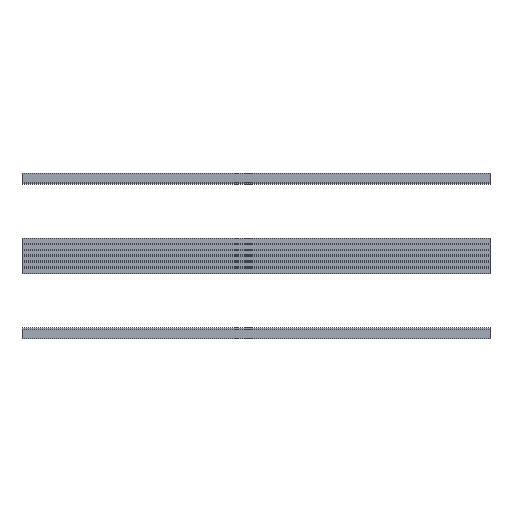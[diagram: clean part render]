
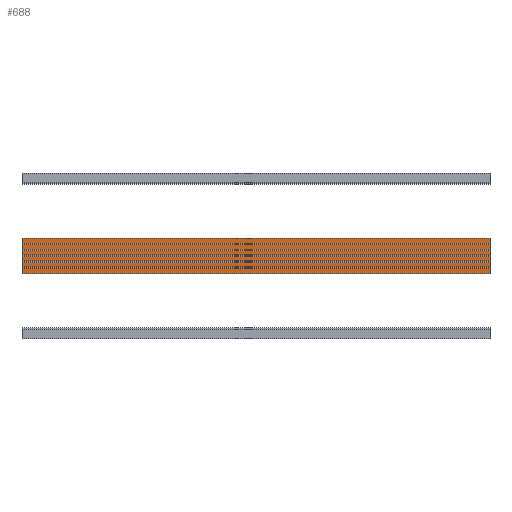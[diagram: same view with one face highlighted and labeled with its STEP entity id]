
A CAD part, top view. The second image highlights one B-rep face of the part: STEP entity #688.
In plain terms, the highlighted planar face has unit normal (0, 0, 1).
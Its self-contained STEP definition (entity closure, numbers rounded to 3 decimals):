
#374 = VERTEX_POINT('',#375);
#375 = CARTESIAN_POINT('',(2.25,-12.,50.));
#382 = PLANE('',#383);
#383 = AXIS2_PLACEMENT_3D('',#384,#385,#386);
#384 = CARTESIAN_POINT('',(2.25,-12.,49.));
#385 = DIRECTION('',(1.,0.,0.));
#386 = DIRECTION('',(0.,0.,1.));
#394 = PLANE('',#395);
#395 = AXIS2_PLACEMENT_3D('',#396,#397,#398);
#396 = CARTESIAN_POINT('',(2.25,-12.,49.));
#397 = DIRECTION('',(0.,1.,0.));
#398 = DIRECTION('',(0.,0.,1.));
#435 = VERTEX_POINT('',#436);
#436 = CARTESIAN_POINT('',(2.25,12.,50.));
#450 = PLANE('',#451);
#451 = AXIS2_PLACEMENT_3D('',#452,#453,#454);
#452 = CARTESIAN_POINT('',(2.25,12.,49.));
#453 = DIRECTION('',(0.,1.,0.));
#454 = DIRECTION('',(0.,0.,1.));
#462 = EDGE_CURVE('',#374,#435,#463,.T.);
#463 = SURFACE_CURVE('',#464,(#468,#475),.PCURVE_S1.);
#464 = LINE('',#465,#466);
#465 = CARTESIAN_POINT('',(2.25,-12.,50.));
#466 = VECTOR('',#467,1.);
#467 = DIRECTION('',(0.,1.,0.));
#468 = PCURVE('',#382,#469);
#469 = DEFINITIONAL_REPRESENTATION('',(#470),#474);
#470 = LINE('',#471,#472);
#471 = CARTESIAN_POINT('',(1.,0.));
#472 = VECTOR('',#473,1.);
#473 = DIRECTION('',(0.,-1.));
#474 = ( GEOMETRIC_REPRESENTATION_CONTEXT(2) 
PARAMETRIC_REPRESENTATION_CONTEXT() REPRESENTATION_CONTEXT('2D SPACE',''
  ) );
#475 = PCURVE('',#476,#481);
#476 = PLANE('',#477);
#477 = AXIS2_PLACEMENT_3D('',#478,#479,#480);
#478 = CARTESIAN_POINT('',(2.25,-12.,50.));
#479 = DIRECTION('',(0.,0.,1.));
#480 = DIRECTION('',(1.,0.,0.));
#481 = DEFINITIONAL_REPRESENTATION('',(#482),#486);
#482 = LINE('',#483,#484);
#483 = CARTESIAN_POINT('',(0.,0.));
#484 = VECTOR('',#485,1.);
#485 = DIRECTION('',(0.,1.));
#486 = ( GEOMETRIC_REPRESENTATION_CONTEXT(2) 
PARAMETRIC_REPRESENTATION_CONTEXT() REPRESENTATION_CONTEXT('2D SPACE',''
  ) );
#494 = VERTEX_POINT('',#495);
#495 = CARTESIAN_POINT('',(320.85,-12.,50.));
#502 = PLANE('',#503);
#503 = AXIS2_PLACEMENT_3D('',#504,#505,#506);
#504 = CARTESIAN_POINT('',(320.85,-12.,49.));
#505 = DIRECTION('',(1.,0.,0.));
#506 = DIRECTION('',(0.,0.,1.));
#545 = VERTEX_POINT('',#546);
#546 = CARTESIAN_POINT('',(320.85,12.,50.));
#567 = EDGE_CURVE('',#494,#545,#568,.T.);
#568 = SURFACE_CURVE('',#569,(#573,#580),.PCURVE_S1.);
#569 = LINE('',#570,#571);
#570 = CARTESIAN_POINT('',(320.85,-12.,50.));
#571 = VECTOR('',#572,1.);
#572 = DIRECTION('',(0.,1.,0.));
#573 = PCURVE('',#502,#574);
#574 = DEFINITIONAL_REPRESENTATION('',(#575),#579);
#575 = LINE('',#576,#577);
#576 = CARTESIAN_POINT('',(1.,0.));
#577 = VECTOR('',#578,1.);
#578 = DIRECTION('',(0.,-1.));
#579 = ( GEOMETRIC_REPRESENTATION_CONTEXT(2) 
PARAMETRIC_REPRESENTATION_CONTEXT() REPRESENTATION_CONTEXT('2D SPACE',''
  ) );
#580 = PCURVE('',#476,#581);
#581 = DEFINITIONAL_REPRESENTATION('',(#582),#586);
#582 = LINE('',#583,#584);
#583 = CARTESIAN_POINT('',(318.6,0.));
#584 = VECTOR('',#585,1.);
#585 = DIRECTION('',(0.,1.));
#586 = ( GEOMETRIC_REPRESENTATION_CONTEXT(2) 
PARAMETRIC_REPRESENTATION_CONTEXT() REPRESENTATION_CONTEXT('2D SPACE',''
  ) );
#613 = EDGE_CURVE('',#374,#494,#614,.T.);
#614 = SURFACE_CURVE('',#615,(#619,#626),.PCURVE_S1.);
#615 = LINE('',#616,#617);
#616 = CARTESIAN_POINT('',(2.25,-12.,50.));
#617 = VECTOR('',#618,1.);
#618 = DIRECTION('',(1.,0.,0.));
#619 = PCURVE('',#394,#620);
#620 = DEFINITIONAL_REPRESENTATION('',(#621),#625);
#621 = LINE('',#622,#623);
#622 = CARTESIAN_POINT('',(1.,0.));
#623 = VECTOR('',#624,1.);
#624 = DIRECTION('',(0.,1.));
#625 = ( GEOMETRIC_REPRESENTATION_CONTEXT(2) 
PARAMETRIC_REPRESENTATION_CONTEXT() REPRESENTATION_CONTEXT('2D SPACE',''
  ) );
#626 = PCURVE('',#476,#627);
#627 = DEFINITIONAL_REPRESENTATION('',(#628),#632);
#628 = LINE('',#629,#630);
#629 = CARTESIAN_POINT('',(0.,0.));
#630 = VECTOR('',#631,1.);
#631 = DIRECTION('',(1.,0.));
#632 = ( GEOMETRIC_REPRESENTATION_CONTEXT(2) 
PARAMETRIC_REPRESENTATION_CONTEXT() REPRESENTATION_CONTEXT('2D SPACE',''
  ) );
#660 = EDGE_CURVE('',#435,#545,#661,.T.);
#661 = SURFACE_CURVE('',#662,(#666,#673),.PCURVE_S1.);
#662 = LINE('',#663,#664);
#663 = CARTESIAN_POINT('',(2.25,12.,50.));
#664 = VECTOR('',#665,1.);
#665 = DIRECTION('',(1.,0.,0.));
#666 = PCURVE('',#450,#667);
#667 = DEFINITIONAL_REPRESENTATION('',(#668),#672);
#668 = LINE('',#669,#670);
#669 = CARTESIAN_POINT('',(1.,0.));
#670 = VECTOR('',#671,1.);
#671 = DIRECTION('',(0.,1.));
#672 = ( GEOMETRIC_REPRESENTATION_CONTEXT(2) 
PARAMETRIC_REPRESENTATION_CONTEXT() REPRESENTATION_CONTEXT('2D SPACE',''
  ) );
#673 = PCURVE('',#476,#674);
#674 = DEFINITIONAL_REPRESENTATION('',(#675),#679);
#675 = LINE('',#676,#677);
#676 = CARTESIAN_POINT('',(0.,24.));
#677 = VECTOR('',#678,1.);
#678 = DIRECTION('',(1.,0.));
#679 = ( GEOMETRIC_REPRESENTATION_CONTEXT(2) 
PARAMETRIC_REPRESENTATION_CONTEXT() REPRESENTATION_CONTEXT('2D SPACE',''
  ) );
#688 = ADVANCED_FACE('',(#689),#476,.T.);
#689 = FACE_BOUND('',#690,.T.);
#690 = EDGE_LOOP('',(#691,#692,#693,#694));
#691 = ORIENTED_EDGE('',*,*,#462,.F.);
#692 = ORIENTED_EDGE('',*,*,#613,.T.);
#693 = ORIENTED_EDGE('',*,*,#567,.T.);
#694 = ORIENTED_EDGE('',*,*,#660,.F.);
